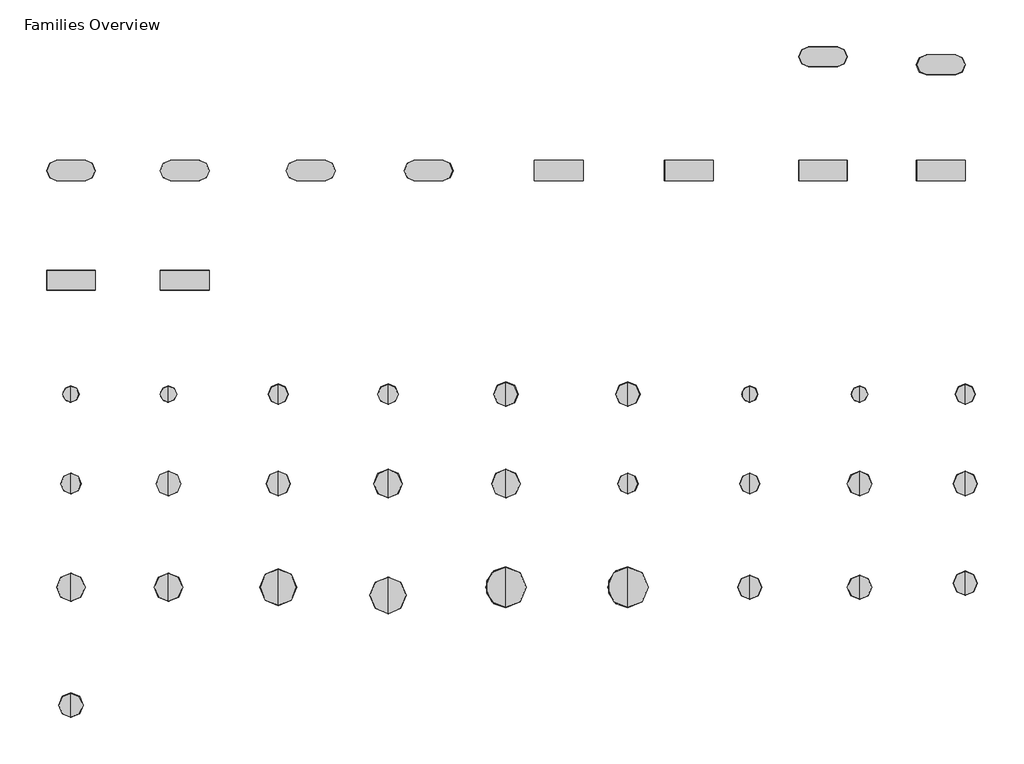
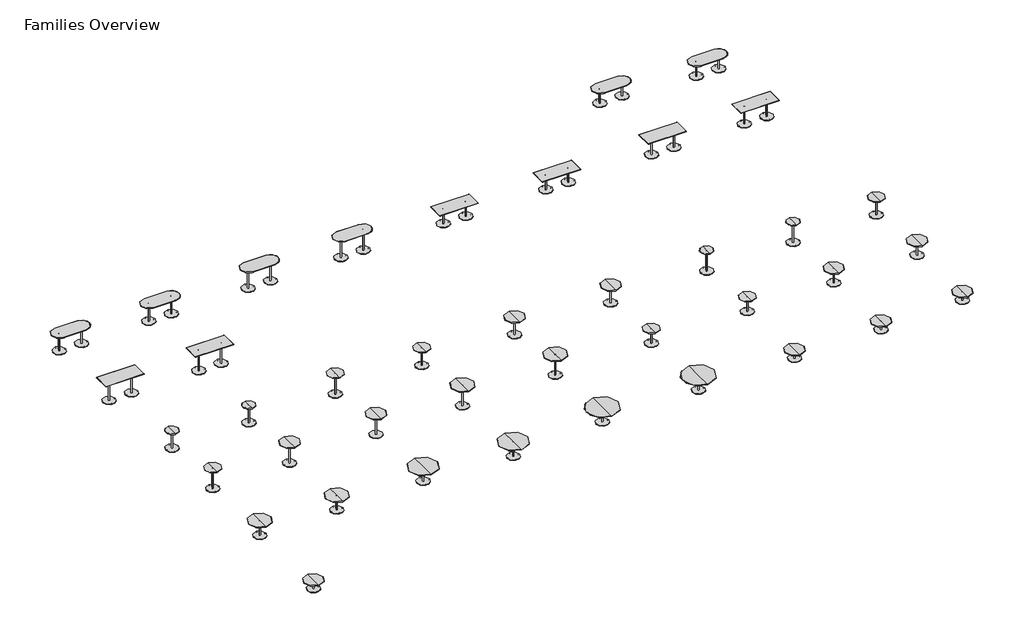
# One storey, incomplete: 40 furniture elements.
"""IFC4 building model written with IfcOpenShell, lengths in millimetres."""

from ifc_helpers import new_model, si_unit, origin, place, context, project, spatial, transform, mapped, element, save
from components import furniture_86c448c0, furniture_13393bcb, furniture_744412c8, cafe_bar_height_24dia_laminate_e88cc10e, cafe_bar_height_30dia_laminate_3aafa5af, cafe_bar_height_30dia_wood_b145a23f, cafe_bar_height_36dia_laminate_e5c98c85, cafe_counter_height_24dia_laminate_39f304ca, cafe_counter_height_36dia_laminate_353299e5, cafe_counter_height_42dia_laminate_a722a0c0, conference_30dia_laminate_23343055, conference_36dia_laminate_163eab1d, conference_42dia_laminate_6cbbf40b, conference_54dia_laminate_d8435889, conference_60dia_laminate_2bc6436f, occasional_36dia_laminate_63b6d017, rectangular_30h_laminate_148f9627, rectangular_36h_laminate_8bdba8d7, rectangular_42h_laminate_b2aa12cb

model = new_model("IFC4")

# Units and contexts
model_context = context("Model", 3, world=origin())
ifc_project = project(units=[si_unit("LENGTHUNIT", "METRE", prefix="MILLI")], contexts=[model_context])

# Site, building, storey
site = spatial("IfcSite", under=ifc_project)
building = spatial("IfcBuilding", under=site)
storey = spatial("IfcBuildingStorey", under=building, Name="Families Overview", Elevation=0.0)

# Furniture
placement = place(None, origin())
furniture_shape = furniture_86c448c0(model_context)
element("IfcFurniture", 1, ObjectType="Steelcase Coalesse - Enea - Table - Double Base : Racetrack - 30H - Wood", at=placement, inside=storey, context=model_context, shape_type="MappedRepresentation", body=[
    mapped(furniture_shape, transform((16865.3047285, 42224.0875791, 0.0), x_axis=(1.0, 0.0, 0.0), y_axis=(0.0, 1.0, 0.0), z_axis=(0.0, 0.0, 1.0))),
])
furniture_2_shape = furniture_13393bcb(model_context)
element("IfcFurniture", 2, ObjectType="Steelcase Coalesse - Enea - Table - Double Base : Racetrack - 36H - Wood", at=placement, inside=storey, context=model_context, shape_type="MappedRepresentation", body=[
    mapped(furniture_2_shape, transform((-11481.0952715, 38261.6875791, 0.0), x_axis=(1.0, 0.0, 0.0), y_axis=(0.0, 1.0, 0.0), z_axis=(0.0, 0.0, 1.0))),
])
furniture_3_shape = furniture_744412c8(model_context)
element("IfcFurniture", 3, ObjectType="Steelcase Coalesse - Enea - Table - Double Base : Racetrack - 42H - Wood", at=placement, inside=storey, context=model_context, shape_type="MappedRepresentation", body=[
    mapped(furniture_3_shape, transform((-2337.0952715, 38261.6875791, 0.0), x_axis=(1.0, 0.0, 0.0), y_axis=(0.0, 1.0, 0.0), z_axis=(0.0, 0.0, 1.0))),
])
element("IfcFurniture", 4, ObjectType="Steelcase Coalesse - Enea - Table - Double Base : Racetrack - 30H - Laminate", at=placement, inside=storey, context=model_context, shape_type="MappedRepresentation", body=[
    mapped(furniture_shape, transform((12445.7047285, 42528.8875791, 0.0), x_axis=(1.0, 0.0, 0.0), y_axis=(0.0, 1.0, 0.0), z_axis=(0.0, 0.0, 1.0))),
])
element("IfcFurniture", 5, ObjectType="Steelcase Coalesse - Enea - Table - Double Base : Racetrack - 36H - Laminate", at=placement, inside=storey, context=model_context, shape_type="MappedRepresentation", body=[
    mapped(furniture_2_shape, transform((-15748.2952715, 38261.6875791, 0.0), x_axis=(1.0, 0.0, 0.0), y_axis=(0.0, 1.0, 0.0), z_axis=(0.0, 0.0, 1.0))),
])
element("IfcFurniture", 6, ObjectType="Steelcase Coalesse - Enea - Table - Double Base : Racetrack - 42H - Laminate", at=placement, inside=storey, context=model_context, shape_type="MappedRepresentation", body=[
    mapped(furniture_3_shape, transform((-6756.6952715, 38261.6875791, 0.0), x_axis=(1.0, 0.0, 0.0), y_axis=(0.0, 1.0, 0.0), z_axis=(0.0, 0.0, 1.0))),
])
cafe_bar_height_24dia_laminate_shape = cafe_bar_height_24dia_laminate_e88cc10e(model_context)
element("IfcFurniture", 7, ObjectType="Steelcase Coalesse - Enea - Table - Single Base : Cafe - Bar Height - 24Dia - Laminate", at=placement, inside=storey, context=model_context, shape_type="MappedRepresentation", body=[
    mapped(cafe_bar_height_24dia_laminate_shape, transform((-16581.7263005, 29879.6875791, 0.0), x_axis=(1.0, 0.0, 0.0), y_axis=(0.0, 1.0, 0.0), z_axis=(0.0, 0.0, 1.0))),
])
element("IfcFurniture", 8, ObjectType="Steelcase Coalesse - Enea - Table - Single Base : Cafe - Bar Height - 24Dia - Wood", at=placement, inside=storey, context=model_context, shape_type="MappedRepresentation", body=[
    mapped(cafe_bar_height_24dia_laminate_shape, transform((-12924.1263005, 29879.6875791, 0.0), x_axis=(1.0, 0.0, 0.0), y_axis=(0.0, 1.0, 0.0), z_axis=(0.0, 0.0, 1.0))),
])
cafe_bar_height_30dia_laminate_shape = cafe_bar_height_30dia_laminate_3aafa5af(model_context)
element("IfcFurniture", 9, ObjectType="Steelcase Coalesse - Enea - Table - Single Base : Cafe - Bar Height - 30Dia - Laminate", at=placement, inside=storey, context=model_context, shape_type="MappedRepresentation", body=[
    mapped(cafe_bar_height_30dia_laminate_shape, transform((-8809.3263005, 29879.6875791, 0.0), x_axis=(1.0, 0.0, 0.0), y_axis=(0.0, 1.0, 0.0), z_axis=(0.0, 0.0, 1.0))),
])
cafe_bar_height_30dia_wood_shape = cafe_bar_height_30dia_wood_b145a23f(model_context)
element("IfcFurniture", 10, ObjectType="Steelcase Coalesse - Enea - Table - Single Base : Cafe - Bar Height - 30Dia - Wood", at=placement, inside=storey, context=model_context, shape_type="MappedRepresentation", body=[
    mapped(cafe_bar_height_30dia_wood_shape, transform((-4694.5263005, 29879.6875791, 0.0), x_axis=(1.0, 0.0, 0.0), y_axis=(0.0, 1.0, 0.0), z_axis=(0.0, 0.0, 1.0))),
])
cafe_bar_height_36dia_laminate_shape = cafe_bar_height_36dia_laminate_e5c98c85(model_context)
element("IfcFurniture", 11, ObjectType="Steelcase Coalesse - Enea - Table - Single Base : Cafe - Bar Height - 36Dia - Laminate", at=placement, inside=storey, context=model_context, shape_type="MappedRepresentation", body=[
    mapped(cafe_bar_height_36dia_laminate_shape, transform((-274.9263005, 29879.6875791, 0.0), x_axis=(1.0, 0.0, 0.0), y_axis=(0.0, 1.0, 0.0), z_axis=(0.0, 0.0, 1.0))),
])
element("IfcFurniture", 12, ObjectType="Steelcase Coalesse - Enea - Table - Single Base : Cafe - Bar Height - 36Dia - Wood", at=placement, inside=storey, context=model_context, shape_type="MappedRepresentation", body=[
    mapped(cafe_bar_height_36dia_laminate_shape, transform((4297.0736995, 29879.6875791, 0.0), x_axis=(1.0, 0.0, 0.0), y_axis=(0.0, 1.0, 0.0), z_axis=(0.0, 0.0, 1.0))),
])
cafe_counter_height_24dia_laminate_shape = cafe_counter_height_24dia_laminate_39f304ca(model_context)
element("IfcFurniture", 13, ObjectType="Steelcase Coalesse - Enea - Table - Single Base : Cafe - Counter Height - 24Dia - Laminate", at=placement, inside=storey, context=model_context, shape_type="MappedRepresentation", body=[
    mapped(cafe_counter_height_24dia_laminate_shape, transform((8869.0736995, 29879.6875791, 0.0), x_axis=(1.0, 0.0, 0.0), y_axis=(0.0, 1.0, 0.0), z_axis=(0.0, 0.0, 1.0))),
])
element("IfcFurniture", 14, ObjectType="Steelcase Coalesse - Enea - Table - Single Base : Cafe - Counter Height - 24Dia - Wood", at=placement, inside=storey, context=model_context, shape_type="MappedRepresentation", body=[
    mapped(cafe_counter_height_24dia_laminate_shape, transform((12983.8736995, 29879.6875791, 0.0), x_axis=(1.0, 0.0, 0.0), y_axis=(0.0, 1.0, 0.0), z_axis=(0.0, 0.0, 1.0))),
])
element("IfcFurniture", 15, ObjectType="Steelcase Coalesse - Enea - Table - Single Base : Cafe - Counter Height - 30Dia - Laminate", at=placement, inside=storey, context=model_context, shape_type="MappedRepresentation", body=[
    mapped(cafe_bar_height_30dia_wood_shape, transform((16946.2736995, 29879.6875791, 0.0), x_axis=(1.0, 0.0, 0.0), y_axis=(0.0, 1.0, 0.0), z_axis=(0.0, 0.0, 1.0))),
])
element("IfcFurniture", 16, ObjectType="Steelcase Coalesse - Enea - Table - Single Base : Cafe - Counter Height - 30Dia - Wood", at=placement, inside=storey, context=model_context, shape_type="MappedRepresentation", body=[
    mapped(cafe_bar_height_30dia_laminate_shape, transform((-16581.7263005, 26526.8875791, 0.0), x_axis=(1.0, 0.0, 0.0), y_axis=(0.0, 1.0, 0.0), z_axis=(0.0, 0.0, 1.0))),
])
cafe_counter_height_36dia_laminate_shape = cafe_counter_height_36dia_laminate_353299e5(model_context)
element("IfcFurniture", 17, ObjectType="Steelcase Coalesse - Enea - Table - Single Base : Cafe - Counter Height - 36Dia - Laminate", at=placement, inside=storey, context=model_context, shape_type="MappedRepresentation", body=[
    mapped(cafe_counter_height_36dia_laminate_shape, transform((-12924.1263005, 26526.8875791, 0.0), x_axis=(1.0, 0.0, 0.0), y_axis=(0.0, 1.0, 0.0), z_axis=(0.0, 0.0, 1.0))),
])
element("IfcFurniture", 18, ObjectType="Steelcase Coalesse - Enea - Table - Single Base : Cafe - Counter Height - 36Dia - Wood", at=placement, inside=storey, context=model_context, shape_type="MappedRepresentation", body=[
    mapped(cafe_counter_height_36dia_laminate_shape, transform((-8809.3263005, 26526.8875791, 0.0), x_axis=(1.0, 0.0, 0.0), y_axis=(0.0, 1.0, 0.0), z_axis=(0.0, 0.0, 1.0))),
])
cafe_counter_height_42dia_laminate_shape = cafe_counter_height_42dia_laminate_a722a0c0(model_context)
element("IfcFurniture", 19, ObjectType="Steelcase Coalesse - Enea - Table - Single Base : Cafe - Counter Height - 42Dia - Laminate", at=placement, inside=storey, context=model_context, shape_type="MappedRepresentation", body=[
    mapped(cafe_counter_height_42dia_laminate_shape, transform((-4694.5263005, 26526.8875791, 0.0), x_axis=(1.0, 0.0, 0.0), y_axis=(0.0, 1.0, 0.0), z_axis=(0.0, 0.0, 1.0))),
])
element("IfcFurniture", 20, ObjectType="Steelcase Coalesse - Enea - Table - Single Base : Cafe - Counter Height - 42Dia - Wood", at=placement, inside=storey, context=model_context, shape_type="MappedRepresentation", body=[
    mapped(cafe_counter_height_42dia_laminate_shape, transform((-274.9263005, 26526.8875791, 0.0), x_axis=(1.0, 0.0, 0.0), y_axis=(0.0, 1.0, 0.0), z_axis=(0.0, 0.0, 1.0))),
])
conference_30dia_laminate_shape = conference_30dia_laminate_23343055(model_context)
element("IfcFurniture", 21, ObjectType="Steelcase Coalesse - Enea - Table - Single Base : Conference - 30Dia - Laminate", at=placement, inside=storey, context=model_context, shape_type="MappedRepresentation", body=[
    mapped(conference_30dia_laminate_shape, transform((4297.0736995, 26526.8875791, 0.0), x_axis=(1.0, 0.0, 0.0), y_axis=(0.0, 1.0, 0.0), z_axis=(0.0, 0.0, 1.0))),
])
element("IfcFurniture", 22, ObjectType="Steelcase Coalesse - Enea - Table - Single Base : Conference - 30Dia - Wood", at=placement, inside=storey, context=model_context, shape_type="MappedRepresentation", body=[
    mapped(conference_30dia_laminate_shape, transform((8869.0736995, 26526.8875791, 0.0), x_axis=(1.0, 0.0, 0.0), y_axis=(0.0, 1.0, 0.0), z_axis=(0.0, 0.0, 1.0))),
])
conference_36dia_laminate_shape = conference_36dia_laminate_163eab1d(model_context)
element("IfcFurniture", 23, ObjectType="Steelcase Coalesse - Enea - Table - Single Base : Conference - 36Dia - Laminate", at=placement, inside=storey, context=model_context, shape_type="MappedRepresentation", body=[
    mapped(conference_36dia_laminate_shape, transform((12983.8736995, 26526.8875791, 0.0), x_axis=(1.0, 0.0, 0.0), y_axis=(0.0, 1.0, 0.0), z_axis=(0.0, 0.0, 1.0))),
])
element("IfcFurniture", 24, ObjectType="Steelcase Coalesse - Enea - Table - Single Base : Conference - 36Dia - Wood", at=placement, inside=storey, context=model_context, shape_type="MappedRepresentation", body=[
    mapped(conference_36dia_laminate_shape, transform((16946.2736995, 26526.8875791, 0.0), x_axis=(1.0, 0.0, 0.0), y_axis=(0.0, 1.0, 0.0), z_axis=(0.0, 0.0, 1.0))),
])
conference_42dia_laminate_shape = conference_42dia_laminate_6cbbf40b(model_context)
element("IfcFurniture", 25, ObjectType="Steelcase Coalesse - Enea - Table - Single Base : Conference - 42Dia - Laminate", at=placement, inside=storey, context=model_context, shape_type="MappedRepresentation", body=[
    mapped(conference_42dia_laminate_shape, transform((-16581.7263005, 22640.0796442, 0.0), x_axis=(1.0, 0.0, 0.0), y_axis=(0.0, 1.0, 0.0), z_axis=(0.0, 0.0, 1.0))),
])
element("IfcFurniture", 26, ObjectType="Steelcase Coalesse - Enea - Table - Single Base : Conference - 42Dia - Wood", at=placement, inside=storey, context=model_context, shape_type="MappedRepresentation", body=[
    mapped(conference_42dia_laminate_shape, transform((-12924.1263005, 22640.0796442, 0.0), x_axis=(1.0, 0.0, 0.0), y_axis=(0.0, 1.0, 0.0), z_axis=(0.0, 0.0, 1.0))),
])
conference_54dia_laminate_shape = conference_54dia_laminate_d8435889(model_context)
element("IfcFurniture", 27, ObjectType="Steelcase Coalesse - Enea - Table - Single Base : Conference - 54Dia - Laminate", at=placement, inside=storey, context=model_context, shape_type="MappedRepresentation", body=[
    mapped(conference_54dia_laminate_shape, transform((-8809.3263005, 22640.0796442, 0.0), x_axis=(1.0, 0.0, 0.0), y_axis=(0.0, 1.0, 0.0), z_axis=(0.0, 0.0, 1.0))),
])
element("IfcFurniture", 28, ObjectType="Steelcase Coalesse - Enea - Table - Single Base : Conference - 54Dia - Wood", at=placement, inside=storey, context=model_context, shape_type="MappedRepresentation", body=[
    mapped(conference_54dia_laminate_shape, transform((-4694.5263005, 22335.2796442, 0.0), x_axis=(1.0, 0.0, 0.0), y_axis=(0.0, 1.0, 0.0), z_axis=(0.0, 0.0, 1.0))),
])
conference_60dia_laminate_shape = conference_60dia_laminate_2bc6436f(model_context)
element("IfcFurniture", 29, ObjectType="Steelcase Coalesse - Enea - Table - Single Base : Conference - 60Dia - Laminate", at=placement, inside=storey, context=model_context, shape_type="MappedRepresentation", body=[
    mapped(conference_60dia_laminate_shape, transform((-274.9263005, 22640.0796442, 0.0), x_axis=(1.0, 0.0, 0.0), y_axis=(0.0, 1.0, 0.0), z_axis=(0.0, 0.0, 1.0))),
])
element("IfcFurniture", 30, ObjectType="Steelcase Coalesse - Enea - Table - Single Base : Conference - 60Dia - Wood", at=placement, inside=storey, context=model_context, shape_type="MappedRepresentation", body=[
    mapped(conference_60dia_laminate_shape, transform((4297.0736995, 22640.0796442, 0.0), x_axis=(1.0, 0.0, 0.0), y_axis=(0.0, 1.0, 0.0), z_axis=(0.0, 0.0, 1.0))),
])
occasional_36dia_laminate_shape = occasional_36dia_laminate_63b6d017(model_context)
element("IfcFurniture", 31, ObjectType="Steelcase Coalesse - Enea - Table - Single Base : Occasional - 36Dia - Laminate", at=placement, inside=storey, context=model_context, shape_type="MappedRepresentation", body=[
    mapped(occasional_36dia_laminate_shape, transform((8869.0736995, 22640.0796442, 0.0), x_axis=(1.0, 0.0, 0.0), y_axis=(0.0, 1.0, 0.0), z_axis=(0.0, 0.0, 1.0))),
])
element("IfcFurniture", 32, ObjectType="Steelcase Coalesse - Enea - Table - Single Base : Occasional - 36Dia - Wood", at=placement, inside=storey, context=model_context, shape_type="MappedRepresentation", body=[
    mapped(occasional_36dia_laminate_shape, transform((12983.8736995, 22640.0796442, 0.0), x_axis=(1.0, 0.0, 0.0), y_axis=(0.0, 1.0, 0.0), z_axis=(0.0, 0.0, 1.0))),
])
element("IfcFurniture", 33, ObjectType="Steelcase Coalesse - Enea - Table - Single Base : Occasional - 42Dia - Laminate", at=placement, inside=storey, context=model_context, shape_type="MappedRepresentation", body=[
    mapped(occasional_36dia_laminate_shape, transform((16946.2736995, 22792.4796442, 0.0), x_axis=(1.0, 0.0, 0.0), y_axis=(0.0, 1.0, 0.0), z_axis=(0.0, 0.0, 1.0))),
])
element("IfcFurniture", 34, ObjectType="Steelcase Coalesse - Enea - Table - Single Base : Occasional - 42Dia - Wood", at=placement, inside=storey, context=model_context, shape_type="MappedRepresentation", body=[
    mapped(occasional_36dia_laminate_shape, transform((-16581.7263005, 18220.4796442, 0.0), x_axis=(1.0, 0.0, 0.0), y_axis=(0.0, 1.0, 0.0), z_axis=(0.0, 0.0, 1.0))),
])
rectangular_30h_laminate_shape = rectangular_30h_laminate_148f9627(model_context)
element("IfcFurniture", 35, ObjectType="Steelcase Coalesse - Enea - Table - Double Base : Rectangular - 30H - Laminate", at=placement, inside=storey, context=model_context, shape_type="MappedRepresentation", body=[
    mapped(rectangular_30h_laminate_shape, transform((2539.7047285, 38261.6875791, 0.0), x_axis=(1.0, 0.0, 0.0), y_axis=(0.0, 1.0, 0.0), z_axis=(0.0, 0.0, 1.0))),
])
element("IfcFurniture", 36, ObjectType="Steelcase Coalesse - Enea - Table - Double Base : Rectangular - 30H - Wood", at=placement, inside=storey, context=model_context, shape_type="MappedRepresentation", body=[
    mapped(rectangular_30h_laminate_shape, transform((7416.5047285, 38261.6875791, 0.0), x_axis=(1.0, 0.0, 0.0), y_axis=(0.0, 1.0, 0.0), z_axis=(0.0, 0.0, 1.0))),
])
rectangular_36h_laminate_shape = rectangular_36h_laminate_8bdba8d7(model_context)
element("IfcFurniture", 37, ObjectType="Steelcase Coalesse - Enea - Table - Double Base : Rectangular - 36H - Laminate", at=placement, inside=storey, context=model_context, shape_type="MappedRepresentation", body=[
    mapped(rectangular_36h_laminate_shape, transform((12445.7047285, 38261.6875791, 0.0), x_axis=(1.0, 0.0, 0.0), y_axis=(0.0, 1.0, 0.0), z_axis=(0.0, 0.0, 1.0))),
])
element("IfcFurniture", 38, ObjectType="Steelcase Coalesse - Enea - Table - Double Base : Rectangular - 36H - Wood", at=placement, inside=storey, context=model_context, shape_type="MappedRepresentation", body=[
    mapped(rectangular_36h_laminate_shape, transform((16865.3047285, 38261.6875791, 0.0), x_axis=(1.0, 0.0, 0.0), y_axis=(0.0, 1.0, 0.0), z_axis=(0.0, 0.0, 1.0))),
])
rectangular_42h_laminate_shape = rectangular_42h_laminate_b2aa12cb(model_context)
element("IfcFurniture", 39, ObjectType="Steelcase Coalesse - Enea - Table - Double Base : Rectangular - 42H - Laminate", at=placement, inside=storey, context=model_context, shape_type="MappedRepresentation", body=[
    mapped(rectangular_42h_laminate_shape, transform((-15748.2952715, 34146.8875791, 0.0), x_axis=(1.0, 0.0, 0.0), y_axis=(0.0, 1.0, 0.0), z_axis=(0.0, 0.0, 1.0))),
])
element("IfcFurniture", 40, ObjectType="Steelcase Coalesse - Enea - Table - Double Base : Rectangular - 42H - Wood", at=placement, inside=storey, context=model_context, shape_type="MappedRepresentation", body=[
    mapped(rectangular_42h_laminate_shape, transform((-11481.0952715, 34146.8875791, 0.0), x_axis=(1.0, 0.0, 0.0), y_axis=(0.0, 1.0, 0.0), z_axis=(0.0, 0.0, 1.0))),
])

save(model, "model.ifc")
